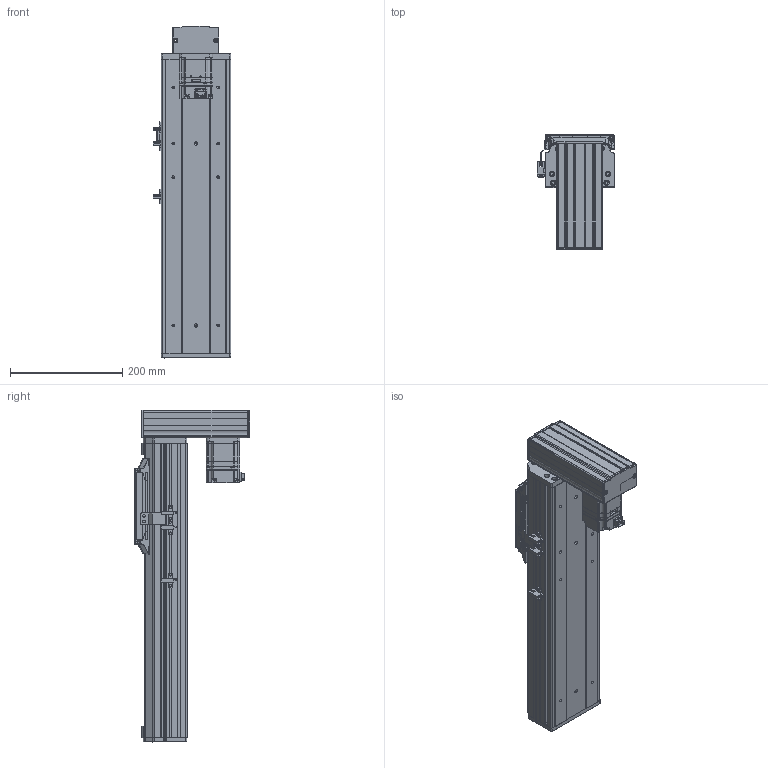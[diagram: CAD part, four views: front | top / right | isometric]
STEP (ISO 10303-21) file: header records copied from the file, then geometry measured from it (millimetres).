
FILE_DESCRIPTION(('Creo Elements/Direct Modeling STEP Export'),'2;1');
FILE_NAME('APCS120UON-ST300.stp','2022-02-18T11:08:47',(''),(''),'Creo Elements/Direct Modeling STEP processor for AP203 (Solid Model)','Creo Elements/Direct Modeling 19.0G 27-Nov-2017 (C) Parametric Technology GmbH','');
FILE_SCHEMA(('CONFIG_CONTROL_DESIGN'));
Length unit declared in the file: millimetre
Products named in the file (17): APCS120_º´·Ä_MOTOR_BRACKET-200_400W; sgmjv_02a_a21; APCS120_º´·Ä_MOTOR_END_COVER; APCS120_SENSOR_DOG; APCS120_º´·Ä_MOTOR_UPPER_COVER-200W_400W; EE_SX672; APOS120_END_PLATE; APCS120_slider_end_cover; p1; p2; APCS120_Carrier; APCS120_end_cover; APCS120_BASE_FRAME-360L(MOTOR_OUT); APCS120UON-1520-ST300-20NN00-N-I3R; APCS120UON-ST300
Assembly tree (20 placements, depth 4):
  APCS120UON-ST300
    APCS120UON-1520-ST300-20NN00-N-I3R
      APCS120_slider_end_cover  x2
      APCS120_BASE_FRAME-360L(MOTOR_OUT)
        p2
        p1
      APCS120_end_cover
      APCS120_Carrier
        p2
        p1
      EE_SX672  x3
      APOS120_END_PLATE
      APCS120_º´·Ä_MOTOR_UPPER_COVER-200W_400W
      APCS120_SENSOR_DOG
      APCS120_º´·Ä_MOTOR_END_COVER  x2
      sgmjv_02a_a21
      APCS120_º´·Ä_MOTOR_BRACKET-200_400W
Bounding box: 137.7 x 205 x 591.5 mm (x, y, z)
Volume: 2854886 mm3; surface area: 827510.1 mm2
Topology: 17 solids, 17 shells, 2414 faces, 6653 edges, 4311 vertices
Faces by surface type: plane 1398, cylinder 801, cone 94, bspline 92, sphere 28, torus 1
Entity records: 67995 total; most frequent: CARTESIAN_POINT 16888, ORIENTED_EDGE 10702, DIRECTION 9792, EDGE_CURVE 5351, VECTOR 3666, LINE 3666, VERTEX_POINT 3507, AXIS2_PLACEMENT_3D 3063
